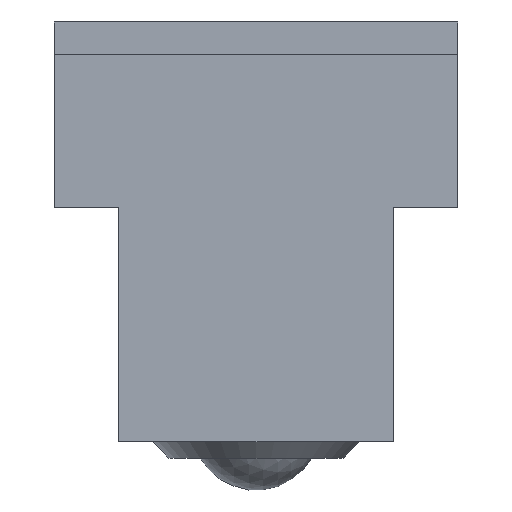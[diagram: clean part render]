
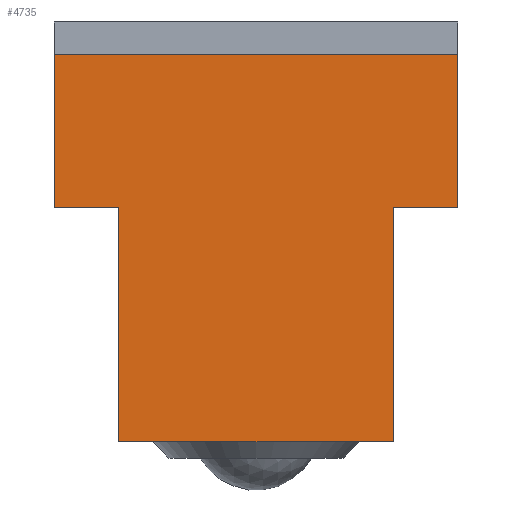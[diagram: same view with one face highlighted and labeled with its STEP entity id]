
A CAD part, left-side view. The second image highlights one B-rep face of the part: STEP entity #4735.
In plain terms, the highlighted planar face has unit normal (-1, 0, 0) as drawn and (0, 0, -1) by its records, which use the part's own axes.
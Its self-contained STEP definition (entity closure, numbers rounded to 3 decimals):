
#424=LINE('',#7447,#672);
#429=LINE('',#7457,#677);
#436=LINE('',#7483,#684);
#443=LINE('',#7497,#691);
#446=LINE('',#7501,#694);
#447=LINE('',#7503,#695);
#448=LINE('',#7506,#696);
#450=LINE('',#7509,#698);
#672=VECTOR('',#5988,14.5);
#677=VECTOR('',#5995,4.);
#684=VECTOR('',#6024,14.5);
#691=VECTOR('',#6035,9.5);
#694=VECTOR('',#6040,4.);
#695=VECTOR('',#6043,17.);
#696=VECTOR('',#6046,9.5);
#698=VECTOR('',#6050,25.);
#916=PLANE('',#5144);
#1449=FACE_OUTER_BOUND('',#1878,.T.);
#1878=EDGE_LOOP('',(#3767,#3768,#3769,#3770,#3771,#3772,#3773,#3774));
#2570=VERTEX_POINT('',#7444);
#2571=VERTEX_POINT('',#7446);
#2574=VERTEX_POINT('',#7454);
#2575=VERTEX_POINT('',#7456);
#2583=VERTEX_POINT('',#7482);
#2587=VERTEX_POINT('',#7495);
#2588=VERTEX_POINT('',#7496);
#2589=VERTEX_POINT('',#7505);
#3020=EDGE_CURVE('',#2570,#2571,#424,.T.);
#3025=EDGE_CURVE('',#2574,#2575,#429,.T.);
#3036=EDGE_CURVE('',#2575,#2583,#436,.T.);
#3043=EDGE_CURVE('',#2587,#2588,#443,.T.);
#3046=EDGE_CURVE('',#2571,#2587,#446,.T.);
#3047=EDGE_CURVE('',#2583,#2570,#447,.T.);
#3048=EDGE_CURVE('',#2589,#2574,#448,.T.);
#3050=EDGE_CURVE('',#2588,#2589,#450,.T.);
#3767=ORIENTED_EDGE('',*,*,#3050,.F.);
#3768=ORIENTED_EDGE('',*,*,#3043,.F.);
#3769=ORIENTED_EDGE('',*,*,#3046,.F.);
#3770=ORIENTED_EDGE('',*,*,#3020,.F.);
#3771=ORIENTED_EDGE('',*,*,#3047,.F.);
#3772=ORIENTED_EDGE('',*,*,#3036,.F.);
#3773=ORIENTED_EDGE('',*,*,#3025,.F.);
#3774=ORIENTED_EDGE('',*,*,#3048,.F.);
#4735=ADVANCED_FACE('',(#1449),#916,.F.);
#5144=AXIS2_PLACEMENT_3D('',#7510,#6051,#6052);
#5988=DIRECTION('',(0.,-1.,0.));
#5995=DIRECTION('',(-1.,0.,0.));
#6024=DIRECTION('',(0.,1.,0.));
#6035=DIRECTION('',(0.,-1.,0.));
#6040=DIRECTION('',(-1.,0.,0.));
#6043=DIRECTION('',(-1.,0.,0.));
#6046=DIRECTION('',(0.,1.,0.));
#6050=DIRECTION('',(1.,0.,0.));
#6051=DIRECTION('center_axis',(0.,0.,1.));
#6052=DIRECTION('ref_axis',(1.,0.,0.));
#7444=CARTESIAN_POINT('',(4.,24.,0.));
#7446=CARTESIAN_POINT('',(4.,9.5,0.));
#7447=CARTESIAN_POINT('',(4.,24.,0.));
#7454=CARTESIAN_POINT('',(25.,9.5,0.));
#7456=CARTESIAN_POINT('',(21.,9.5,0.));
#7457=CARTESIAN_POINT('',(25.,9.5,0.));
#7482=CARTESIAN_POINT('',(21.,24.,0.));
#7483=CARTESIAN_POINT('',(21.,9.5,0.));
#7495=CARTESIAN_POINT('',(0.,9.5,0.));
#7496=CARTESIAN_POINT('',(0.,0.,0.));
#7497=CARTESIAN_POINT('',(0.,9.5,0.));
#7501=CARTESIAN_POINT('',(4.,9.5,0.));
#7503=CARTESIAN_POINT('',(21.,24.,0.));
#7505=CARTESIAN_POINT('',(25.,0.,0.));
#7506=CARTESIAN_POINT('',(25.,0.,0.));
#7509=CARTESIAN_POINT('',(0.,0.,0.));
#7510=CARTESIAN_POINT('Origin',(12.5,10.816,0.));
